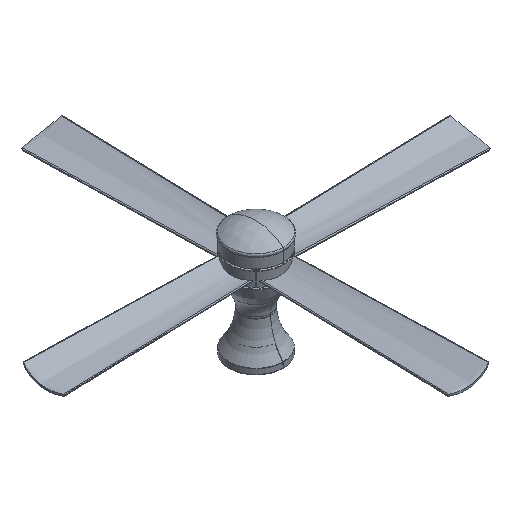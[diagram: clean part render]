
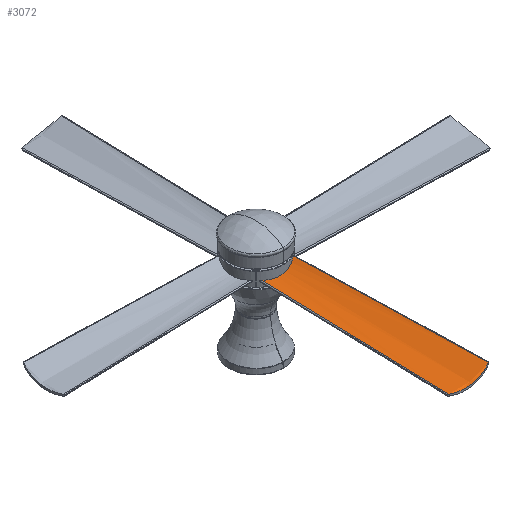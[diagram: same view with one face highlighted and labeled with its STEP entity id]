
A CAD part, isometric view. The second image highlights one B-rep face of the part: STEP entity #3072.
In plain terms, the highlighted free-form (B-spline) face has degree [3, 1] with [6, 2] control points.
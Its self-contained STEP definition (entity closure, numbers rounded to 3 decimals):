
#51=B_SPLINE_SURFACE_WITH_KNOTS('',3,1,((#5416,#5417),(#5418,#5419),(#5420,
#5421),(#5422,#5423),(#5424,#5425),(#5426,#5427)),.UNSPECIFIED.,.F.,.F.,
 .F.,(4,1,1,4),(2,2),(0.,0.333,0.667,1.),(0.,1.),
 .UNSPECIFIED.);
#277=FACE_OUTER_BOUND('',#461,.T.);
#461=EDGE_LOOP('',(#2242,#2243,#2244,#2245,#2246));
#659=B_SPLINE_CURVE_WITH_KNOTS('',3,(#4961,#4962,#4963,#4964,#4965,#4966,
#4967,#4968,#4969,#4970,#4971,#4972,#4973,#4974),.UNSPECIFIED.,.F.,.F.,
(4,2,2,2,2,2,4),(-94.883,-78.29,-62.471,
-47.476,-33.428,-17.405,0.),.UNSPECIFIED.);
#667=B_SPLINE_CURVE_WITH_KNOTS('',3,(#5215,#5216,#5217,#5218,#5219,#5220,
#5221,#5222,#5223,#5224),.UNSPECIFIED.,.F.,.F.,(4,2,2,2,4),(0.,
28.938,57.383,85.893,114.735),
 .UNSPECIFIED.);
#669=B_SPLINE_CURVE_WITH_KNOTS('',3,(#5241,#5242,#5243,#5244,#5245,#5246),
 .UNSPECIFIED.,.F.,.F.,(4,2,4),(0.,0.645,1.289),
 .UNSPECIFIED.);
#854=LINE('',#5346,#1049);
#862=LINE('',#5403,#1057);
#1049=VECTOR('',#3544,304.8);
#1057=VECTOR('',#3552,304.8);
#1268=VERTEX_POINT('',#4887);
#1274=VERTEX_POINT('',#4948);
#1281=VERTEX_POINT('',#5213);
#1282=VERTEX_POINT('',#5214);
#1285=VERTEX_POINT('',#5240);
#1619=EDGE_CURVE('',#1268,#1274,#659,.T.);
#1629=EDGE_CURVE('',#1281,#1282,#667,.T.);
#1633=EDGE_CURVE('',#1285,#1281,#669,.T.);
#1642=EDGE_CURVE('',#1274,#1285,#854,.T.);
#1650=EDGE_CURVE('',#1282,#1268,#862,.T.);
#2242=ORIENTED_EDGE('',*,*,#1629,.T.);
#2243=ORIENTED_EDGE('',*,*,#1650,.T.);
#2244=ORIENTED_EDGE('',*,*,#1619,.T.);
#2245=ORIENTED_EDGE('',*,*,#1642,.T.);
#2246=ORIENTED_EDGE('',*,*,#1633,.T.);
#3072=ADVANCED_FACE('',(#277),#51,.F.);
#3544=DIRECTION('',(-0.023,-1.,-0.004));
#3552=DIRECTION('',(-0.023,1.,-0.005));
#4887=CARTESIAN_POINT('',(40.881,-62.866,243.46));
#4948=CARTESIAN_POINT('',(-44.866,-60.087,226.815));
#4961=CARTESIAN_POINT('Ctrl Pts',(40.881,-62.866,243.46));
#4962=CARTESIAN_POINT('Ctrl Pts',(36.793,-65.524,240.838));
#4963=CARTESIAN_POINT('Ctrl Pts',(32.376,-67.83,238.376));
#4964=CARTESIAN_POINT('Ctrl Pts',(23.17,-71.484,234.042));
#4965=CARTESIAN_POINT('Ctrl Pts',(18.426,-72.864,232.157));
#4966=CARTESIAN_POINT('Ctrl Pts',(8.788,-74.625,229.054));
#4967=CARTESIAN_POINT('Ctrl Pts',(3.958,-75.046,227.821));
#4968=CARTESIAN_POINT('Ctrl Pts',(-5.555,-74.925,226.017));
#4969=CARTESIAN_POINT('Ctrl Pts',(-10.174,-74.443,225.419));
#4970=CARTESIAN_POINT('Ctrl Pts',(-19.98,-72.475,224.717));
#4971=CARTESIAN_POINT('Ctrl Pts',(-25.077,-70.873,224.7));
#4972=CARTESIAN_POINT('Ctrl Pts',(-35.277,-66.427,225.285));
#4973=CARTESIAN_POINT('Ctrl Pts',(-40.271,-63.518,225.937));
#4974=CARTESIAN_POINT('Ctrl Pts',(-44.866,-60.087,226.815));
#5213=CARTESIAN_POINT('',(-55.817,-591.315,224.422));
#5214=CARTESIAN_POINT('',(52.782,-591.315,245.991));
#5215=CARTESIAN_POINT('Ctrl Pts',(-55.817,-591.315,224.422));
#5216=CARTESIAN_POINT('Ctrl Pts',(-46.712,-594.247,223.176));
#5217=CARTESIAN_POINT('Ctrl Pts',(-37.336,-596.451,222.663));
#5218=CARTESIAN_POINT('Ctrl Pts',(-18.433,-599.288,223.242));
#5219=CARTESIAN_POINT('Ctrl Pts',(-9.053,-599.927,224.306));
#5220=CARTESIAN_POINT('Ctrl Pts',(9.544,-599.743,227.994));
#5221=CARTESIAN_POINT('Ctrl Pts',(18.624,-598.92,230.595));
#5222=CARTESIAN_POINT('Ctrl Pts',(36.294,-595.995,237.272));
#5223=CARTESIAN_POINT('Ctrl Pts',(44.781,-593.892,241.326));
#5224=CARTESIAN_POINT('Ctrl Pts',(52.782,-591.315,245.991));
#5240=CARTESIAN_POINT('',(-56.981,-590.79,224.586));
#5241=CARTESIAN_POINT('Ctrl Pts',(-56.981,-590.791,224.586));
#5242=CARTESIAN_POINT('Ctrl Pts',(-56.797,-590.9,224.559));
#5243=CARTESIAN_POINT('Ctrl Pts',(-56.608,-590.998,224.532));
#5244=CARTESIAN_POINT('Ctrl Pts',(-56.219,-591.173,224.477));
#5245=CARTESIAN_POINT('Ctrl Pts',(-56.02,-591.25,224.449));
#5246=CARTESIAN_POINT('Ctrl Pts',(-55.817,-591.315,224.422));
#5346=CARTESIAN_POINT('',(-44.866,-60.087,226.815));
#5403=CARTESIAN_POINT('',(52.782,-591.315,245.991));
#5416=CARTESIAN_POINT('Ctrl Pts',(-44.866,-60.087,226.815));
#5417=CARTESIAN_POINT('Ctrl Pts',(-57.187,-599.837,224.548));
#5418=CARTESIAN_POINT('Ctrl Pts',(-35.103,-60.08,225.01));
#5419=CARTESIAN_POINT('Ctrl Pts',(-44.608,-599.83,222.774));
#5420=CARTESIAN_POINT('Ctrl Pts',(-15.124,-60.076,223.851));
#5421=CARTESIAN_POINT('Ctrl Pts',(-19.054,-599.828,222.027));
#5422=CARTESIAN_POINT('Ctrl Pts',(14.346,-60.097,229.571));
#5423=CARTESIAN_POINT('Ctrl Pts',(18.585,-599.855,229.367));
#5424=CARTESIAN_POINT('Ctrl Pts',(32.44,-60.129,238.12));
#5425=CARTESIAN_POINT('Ctrl Pts',(41.985,-599.893,239.661));
#5426=CARTESIAN_POINT('Ctrl Pts',(40.819,-60.148,243.447));
#5427=CARTESIAN_POINT('Ctrl Pts',(52.976,-599.917,246.032));
